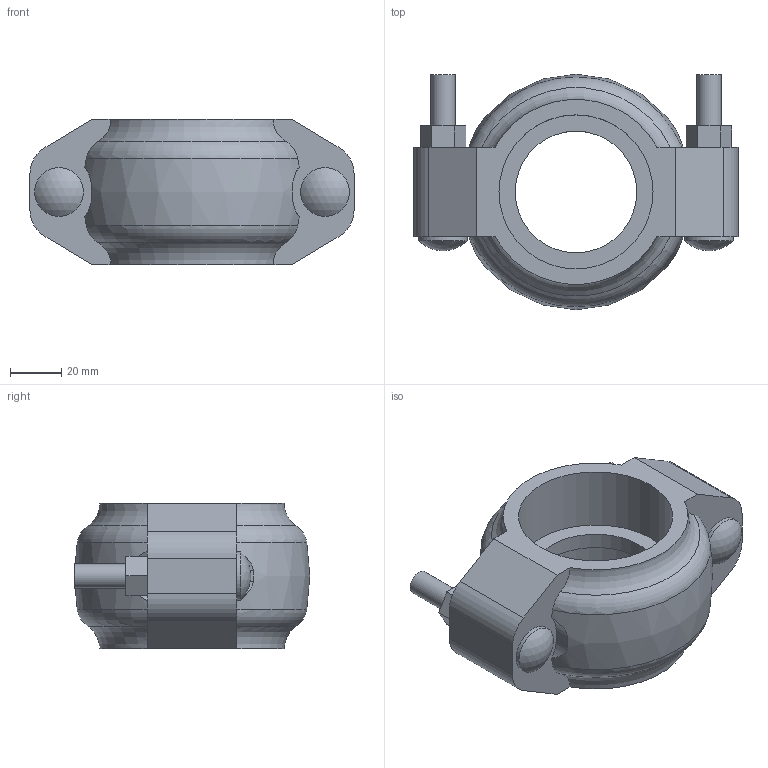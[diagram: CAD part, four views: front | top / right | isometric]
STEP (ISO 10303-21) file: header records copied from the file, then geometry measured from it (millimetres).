
FILE_DESCRIPTION(/* description */ ('VIC STRENGTHIN COUPLING STYLE E497 (RIGID)','CAx-IF Rec.Pracs.---Representation and Presentation of Product Manufacturing Information (PMI)---4.0---2014-10-13'),/* implementation_level */ '2;1');
FILE_NAME(/* name */ 'C:\Users\Vjadhav\AppData\Roaming\Autodesk\ApplicationPlugins\Back Up\Victaulic_SS-StrengThin 100_Coupling Rigid_Style E497 (ST1)\Victaulic_SS-StrengThin 100_Coupling Rigid_Style E497 (ST1)_2 (50).stp',/* time_stamp */ '2020-07-07T19:35:33+05:00',/* author */ ('jheald'),/* organization */ ('Victaulic'),/* preprocessor_version */ 'ST-DEVELOPER v17.2',/* originating_system */ 'Autodesk Inventor 2019',/* authorisation */ '');
FILE_SCHEMA (('AP242_MANAGED_MODEL_BASED_3D_ENGINEERING_MIM_LF { 1 0 10303 442 1 1 4 }'));
Length unit declared in the file: inch
Products named in the file (1): E497-02.0
Bounding box: 127 x 92.2 x 57.15 mm (x, y, z)
Volume: 237271.9 mm3; surface area: 46065 mm2
Topology: 1 solids, 3 shells, 79 faces, 211 edges, 142 vertices
Faces by surface type: plane 42, cylinder 25, torus 8, sphere 2, bspline 2
Full cylindrical faces by diameter (mm): 9.525 x4, 19.05 x2, 47.625 x1, 60.325 x2
Entity records: 2960 total; most frequent: CARTESIAN_POINT 762, DIRECTION 423, ORIENTED_EDGE 422, EDGE_CURVE 211, AXIS2_PLACEMENT_3D 157, VERTEX_POINT 142, LINE 109, VECTOR 109
